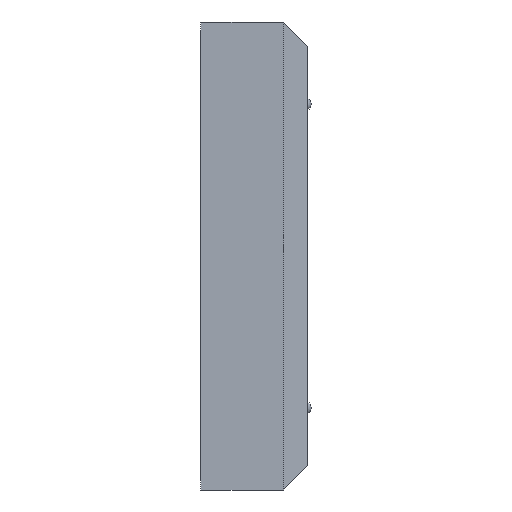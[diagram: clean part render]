
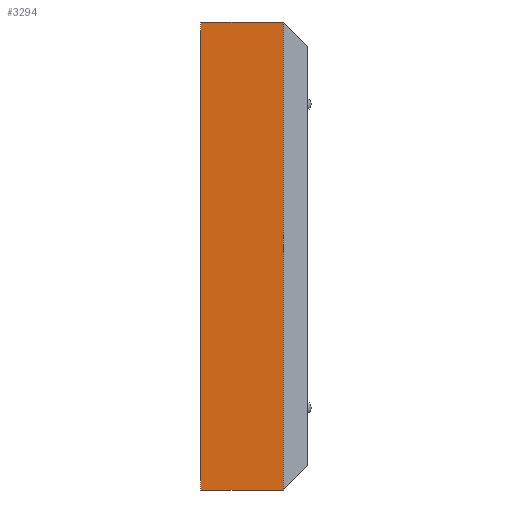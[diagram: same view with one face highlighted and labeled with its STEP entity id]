
A CAD part, left-side view. The second image highlights one B-rep face of the part: STEP entity #3294.
In plain terms, the highlighted planar face has unit normal (-1, 0, 0).
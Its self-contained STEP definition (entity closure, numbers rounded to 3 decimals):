
#35 = VECTOR ( 'NONE', #218, 1000. ) ;
#60 = DIRECTION ( 'NONE',  ( 0., 1., 0. ) ) ;
#218 = DIRECTION ( 'NONE',  ( 0., 0., 1. ) ) ;
#771 = DIRECTION ( 'NONE',  ( 0., 0., 1. ) ) ;
#775 = FACE_OUTER_BOUND ( 'NONE', #4508, .T. ) ;
#1065 = LINE ( 'NONE', #2588, #3353 ) ;
#1069 = LINE ( 'NONE', #1482, #4016 ) ;
#1111 = CARTESIAN_POINT ( 'NONE',  ( -62.5, -11.8, -33.5 ) ) ;
#1141 = DIRECTION ( 'NONE',  ( -1., 0., 0. ) ) ;
#1244 = ORIENTED_EDGE ( 'NONE', *, *, #3844, .T. ) ;
#1482 = CARTESIAN_POINT ( 'NONE',  ( -62.5, -15.3, -33.5 ) ) ;
#1599 = ORIENTED_EDGE ( 'NONE', *, *, #3354, .F. ) ;
#1669 = EDGE_CURVE ( 'NONE', #3302, #3792, #4122, .T. ) ;
#1719 = DIRECTION ( 'NONE',  ( 0., 0., 1. ) ) ;
#2070 = LINE ( 'NONE', #4627, #35 ) ;
#2240 = PLANE ( 'NONE',  #2344 ) ;
#2344 = AXIS2_PLACEMENT_3D ( 'NONE', #4454, #1141, #771 ) ;
#2447 = VERTEX_POINT ( 'NONE', #3565 ) ;
#2588 = CARTESIAN_POINT ( 'NONE',  ( -62.5, -11.8, 33.5 ) ) ;
#2605 = CARTESIAN_POINT ( 'NONE',  ( -62.5, -11.8, 33.5 ) ) ;
#2670 = DIRECTION ( 'NONE',  ( 0., 1., 0. ) ) ;
#2777 = CARTESIAN_POINT ( 'NONE',  ( -62.5, -15.3, 33.5 ) ) ;
#2937 = CARTESIAN_POINT ( 'NONE',  ( -62.5, 0., 33.5 ) ) ;
#3118 = VECTOR ( 'NONE', #2670, 1000. ) ;
#3294 = ADVANCED_FACE ( 'NONE', ( #775 ), #2240, .T. ) ;
#3302 = VERTEX_POINT ( 'NONE', #2605 ) ;
#3353 = VECTOR ( 'NONE', #1719, 1000. ) ;
#3354 = EDGE_CURVE ( 'NONE', #3796, #2447, #1069, .T. ) ;
#3484 = ORIENTED_EDGE ( 'NONE', *, *, #4194, .F. ) ;
#3565 = CARTESIAN_POINT ( 'NONE',  ( -62.5, 0., -33.5 ) ) ;
#3792 = VERTEX_POINT ( 'NONE', #2937 ) ;
#3796 = VERTEX_POINT ( 'NONE', #1111 ) ;
#3844 = EDGE_CURVE ( 'NONE', #3796, #3302, #1065, .T. ) ;
#4016 = VECTOR ( 'NONE', #60, 1000. ) ;
#4122 = LINE ( 'NONE', #2777, #3118 ) ;
#4194 = EDGE_CURVE ( 'NONE', #2447, #3792, #2070, .T. ) ;
#4242 = ORIENTED_EDGE ( 'NONE', *, *, #1669, .T. ) ;
#4454 = CARTESIAN_POINT ( 'NONE',  ( -62.5, -15.3, -33.5 ) ) ;
#4508 = EDGE_LOOP ( 'NONE', ( #1599, #1244, #4242, #3484 ) ) ;
#4627 = CARTESIAN_POINT ( 'NONE',  ( -62.5, 0., -33.5 ) ) ;
